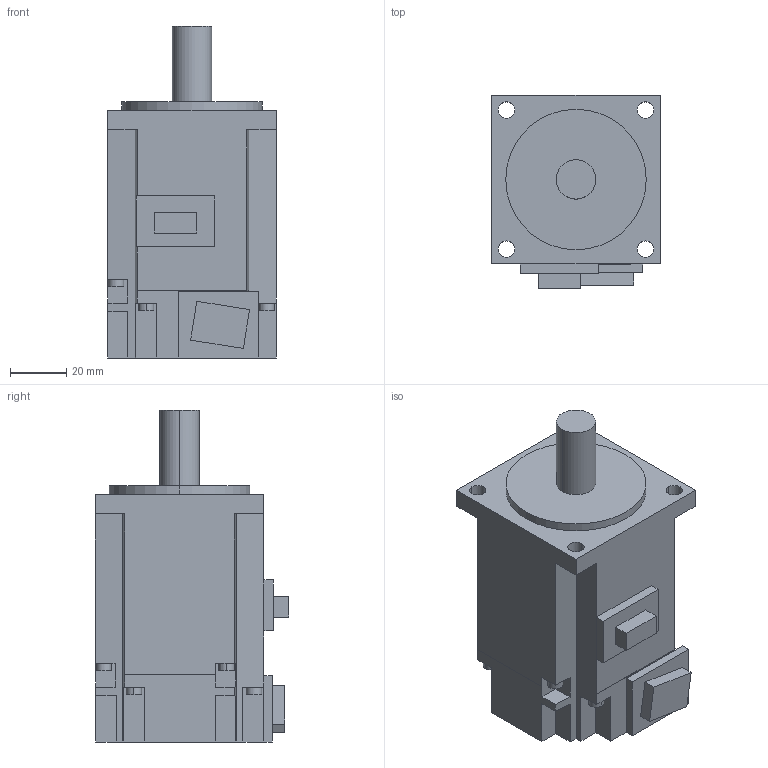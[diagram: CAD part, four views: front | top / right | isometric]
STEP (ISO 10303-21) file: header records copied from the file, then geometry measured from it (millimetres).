
FILE_DESCRIPTION((''),'2;1');
FILE_NAME('HF-KN23_B_IF0001','2010-04-03T',('DD65885'),(''),'PRO/ENGINEER BY PARAMETRIC TECHNOLOGY CORPORATION, 2007390','PRO/ENGINEER BY PARAMETRIC TECHNOLOGY CORPORATION, 2007390','');
FILE_SCHEMA(('CONFIG_CONTROL_DESIGN'));
Length unit declared in the file: millimetre
Products named in the file (1): HF-KN23_B_IF0001
Bounding box: 60 x 68.8 x 118.2 mm (x, y, z)
Volume: 291340.5 mm3; surface area: 31934.7 mm2
Topology: 1 solids, 1 shells, 117 faces, 308 edges, 204 vertices
Faces by surface type: plane 91, cylinder 26
Entity records: 3636 total; most frequent: CARTESIAN_POINT 629, ORIENTED_EDGE 616, DIRECTION 594, EDGE_CURVE 308, VECTOR 256, LINE 256, VERTEX_POINT 204, AXIS2_PLACEMENT_3D 169
